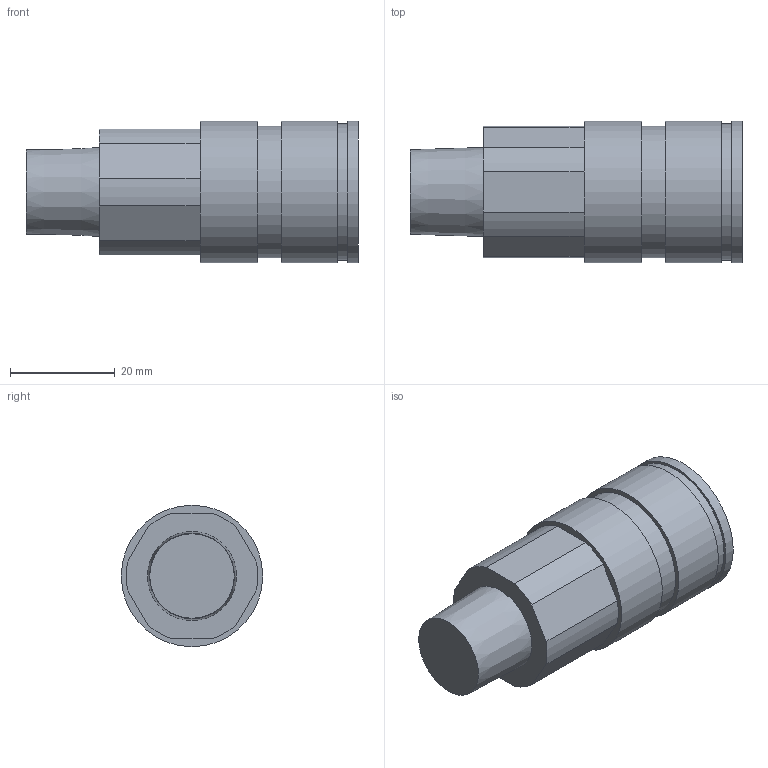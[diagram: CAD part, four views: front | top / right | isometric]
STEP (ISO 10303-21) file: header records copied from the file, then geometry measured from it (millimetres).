
FILE_DESCRIPTION((''),'2;1');
FILE_NAME('Z:\客先\あ行\アオイ\99_その他\3D_DATA\CPR_Series\10CPR-SSV-R-C\STEP\203\CPR-SSV-R3-8-C.ipt.stp','2008-07-03T14:14:05',(''),(''),'Autodesk Inventor 2009','Autodesk Inventor 2009','');
FILE_SCHEMA(('CONFIG_CONTROL_DESIGN'));
Length unit declared in the file: millimetre
Products named in the file (1): CPR-SSV-R3-8-C
Bounding box: 63.4 x 27 x 27 mm (x, y, z)
Volume: 22779.3 mm3; surface area: 7443.6 mm2
Topology: 1 solids, 1 shells, 28 faces, 57 edges, 38 vertices
Faces by surface type: plane 15, cylinder 12, cone 1
Full cylindrical faces by diameter (mm): 19.1 x1, 25.2 x1, 26 x1, 27 x3
Entity records: 729 total; most frequent: DIRECTION 134, CARTESIAN_POINT 117, ORIENTED_EDGE 100, AXIS2_PLACEMENT_3D 55, EDGE_CURVE 50, EDGE_LOOP 42, VERTEX_POINT 38, FACE_OUTER_BOUND 28
